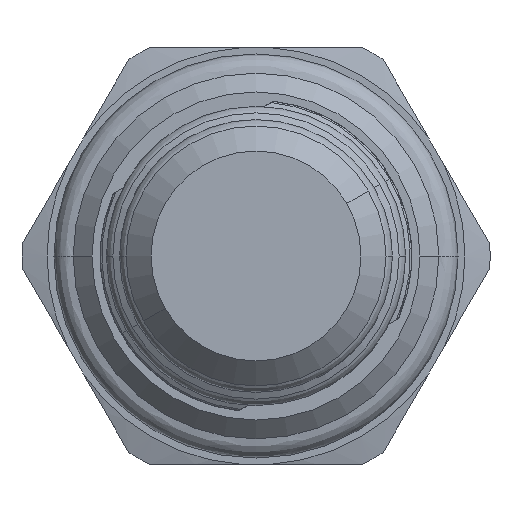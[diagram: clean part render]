
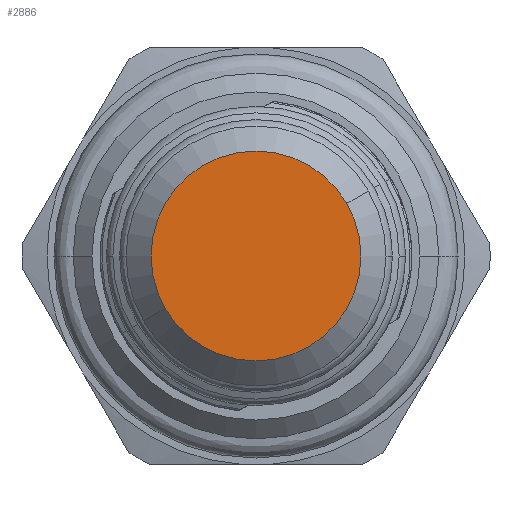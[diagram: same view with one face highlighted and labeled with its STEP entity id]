
A CAD part, front view. The second image highlights one B-rep face of the part: STEP entity #2886.
In plain terms, the highlighted planar face has unit normal (0, -1, 0).
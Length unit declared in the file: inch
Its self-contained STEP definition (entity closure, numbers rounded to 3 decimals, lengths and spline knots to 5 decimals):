
#1158=CARTESIAN_POINT('',(0.,-1.842,0.));
#1159=DIRECTION('',(0.,-1.,0.));
#1160=DIRECTION('',(-0.866,0.,-0.5));
#1161=AXIS2_PLACEMENT_3D('',#1158,#1159,#1160);
#1176=CARTESIAN_POINT('',(0.,-1.842,0.));
#1177=DIRECTION('',(0.,1.,0.));
#1178=DIRECTION('',(-0.866,0.,-0.5));
#1179=AXIS2_PLACEMENT_3D('',#1176,#1177,#1178);
#1265=CARTESIAN_POINT('',(-0.21737,-1.842,-0.1255));
#1266=CARTESIAN_POINT('',(0.21737,-1.842,0.1255));
#1267=VERTEX_POINT('',#1265);
#1268=VERTEX_POINT('',#1266);
#2876=CARTESIAN_POINT('',(0.,-1.842,0.));
#2877=DIRECTION('',(0.,-1.,0.));
#2878=DIRECTION('',(-0.866,0.,-0.5));
#2879=AXIS2_PLACEMENT_3D('',#2876,#2877,#2878);
#2880=PLANE('',#2879);
#2881=ORIENTED_EDGE('',*,*,#2866,.F.);
#2883=ORIENTED_EDGE('',*,*,#2882,.T.);
#2884=EDGE_LOOP('',(#2881,#2883));
#2885=FACE_OUTER_BOUND('',#2884,.F.);
#2886=ADVANCED_FACE('',(#2885),#2880,.T.);
#1162=CIRCLE('',#1161,0.251);
#1180=CIRCLE('',#1179,0.251);
#2866=EDGE_CURVE('',#1267,#1268,#1162,.T.);
#2882=EDGE_CURVE('',#1267,#1268,#1180,.T.);
